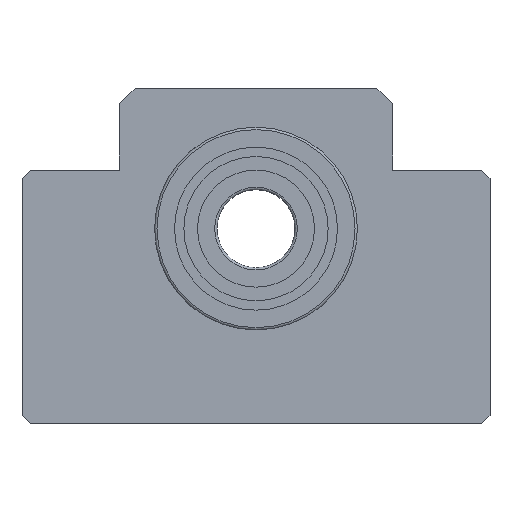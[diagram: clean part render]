
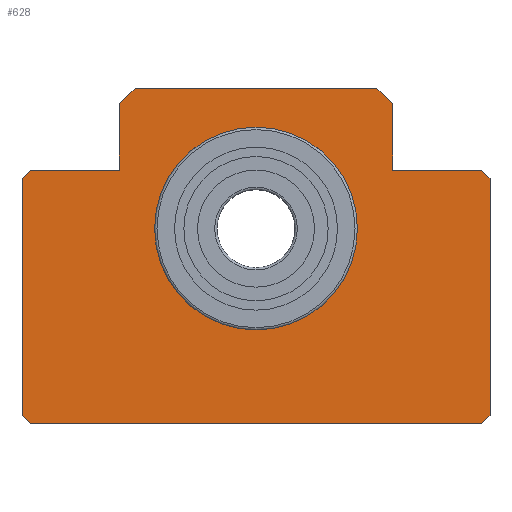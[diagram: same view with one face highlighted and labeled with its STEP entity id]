
A CAD part, top view. The second image highlights one B-rep face of the part: STEP entity #628.
In plain terms, the highlighted planar face has unit normal (0, 0, 1).
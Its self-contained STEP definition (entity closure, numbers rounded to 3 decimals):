
#52=CIRCLE('',#703,13.);
#152=ORIENTED_EDGE('',*,*,#268,.F.);
#153=ORIENTED_EDGE('',*,*,#221,.T.);
#154=ORIENTED_EDGE('',*,*,#225,.T.);
#155=ORIENTED_EDGE('',*,*,#230,.T.);
#156=ORIENTED_EDGE('',*,*,#233,.T.);
#157=ORIENTED_EDGE('',*,*,#236,.T.);
#158=ORIENTED_EDGE('',*,*,#239,.T.);
#159=ORIENTED_EDGE('',*,*,#243,.T.);
#160=ORIENTED_EDGE('',*,*,#246,.T.);
#161=ORIENTED_EDGE('',*,*,#249,.T.);
#162=ORIENTED_EDGE('',*,*,#252,.T.);
#163=ORIENTED_EDGE('',*,*,#255,.T.);
#164=ORIENTED_EDGE('',*,*,#258,.T.);
#165=ORIENTED_EDGE('',*,*,#262,.T.);
#166=ORIENTED_EDGE('',*,*,#265,.T.);
#221=EDGE_CURVE('',#293,#294,#351,.T.);
#225=EDGE_CURVE('',#294,#297,#355,.T.);
#230=EDGE_CURVE('',#297,#301,#358,.T.);
#233=EDGE_CURVE('',#301,#303,#361,.T.);
#236=EDGE_CURVE('',#303,#305,#364,.T.);
#239=EDGE_CURVE('',#305,#307,#367,.T.);
#243=EDGE_CURVE('',#307,#310,#370,.T.);
#246=EDGE_CURVE('',#310,#312,#373,.T.);
#249=EDGE_CURVE('',#312,#314,#376,.T.);
#252=EDGE_CURVE('',#314,#316,#379,.T.);
#255=EDGE_CURVE('',#316,#318,#382,.T.);
#258=EDGE_CURVE('',#318,#320,#385,.T.);
#262=EDGE_CURVE('',#320,#323,#388,.T.);
#265=EDGE_CURVE('',#323,#293,#391,.T.);
#268=EDGE_CURVE('',#326,#326,#52,.T.);
#293=VERTEX_POINT('',#954);
#294=VERTEX_POINT('',#955);
#297=VERTEX_POINT('',#963);
#301=VERTEX_POINT('',#973);
#303=VERTEX_POINT('',#979);
#305=VERTEX_POINT('',#985);
#307=VERTEX_POINT('',#991);
#310=VERTEX_POINT('',#999);
#312=VERTEX_POINT('',#1005);
#314=VERTEX_POINT('',#1011);
#316=VERTEX_POINT('',#1017);
#318=VERTEX_POINT('',#1023);
#320=VERTEX_POINT('',#1029);
#323=VERTEX_POINT('',#1037);
#326=VERTEX_POINT('',#1049);
#351=LINE('',#953,#393);
#355=LINE('',#962,#397);
#358=LINE('',#972,#400);
#361=LINE('',#978,#403);
#364=LINE('',#984,#406);
#367=LINE('',#990,#409);
#370=LINE('',#998,#412);
#373=LINE('',#1004,#415);
#376=LINE('',#1010,#418);
#379=LINE('',#1016,#421);
#382=LINE('',#1022,#424);
#385=LINE('',#1028,#427);
#388=LINE('',#1036,#430);
#391=LINE('',#1042,#433);
#393=VECTOR('',#761,1000.);
#397=VECTOR('',#767,1000.);
#400=VECTOR('',#776,1000.);
#403=VECTOR('',#781,1000.);
#406=VECTOR('',#786,1000.);
#409=VECTOR('',#791,1000.);
#412=VECTOR('',#798,1000.);
#415=VECTOR('',#803,1000.);
#418=VECTOR('',#808,1000.);
#421=VECTOR('',#813,1000.);
#424=VECTOR('',#818,1000.);
#427=VECTOR('',#823,1000.);
#430=VECTOR('',#830,1000.);
#433=VECTOR('',#835,1000.);
#455=EDGE_LOOP('',(#152));
#456=EDGE_LOOP('',(#153,#154,#155,#156,#157,#158,#159,#160,#161,#162,#163,
#164,#165,#166));
#531=FACE_BOUND('',#455,.T.);
#532=FACE_BOUND('',#456,.T.);
#602=PLANE('',#702);
#628=ADVANCED_FACE('',(#531,#532),#602,.T.);
#702=AXIS2_PLACEMENT_3D('',#1047,#841,#842);
#703=AXIS2_PLACEMENT_3D('',#1048,#843,#844);
#761=DIRECTION('',(0.,-1.,0.));
#767=DIRECTION('',(0.707,-0.707,0.));
#776=DIRECTION('',(1.,0.,0.));
#781=DIRECTION('',(0.707,0.707,0.));
#786=DIRECTION('',(0.,1.,0.));
#791=DIRECTION('',(-0.707,0.707,0.));
#798=DIRECTION('',(-1.,0.,0.));
#803=DIRECTION('',(0.,1.,0.));
#808=DIRECTION('',(-0.707,0.707,0.));
#813=DIRECTION('',(-1.,0.,0.));
#818=DIRECTION('',(-0.707,-0.707,0.));
#823=DIRECTION('',(0.,-1.,0.));
#830=DIRECTION('',(-1.,0.,0.));
#835=DIRECTION('',(-0.707,-0.707,0.));
#841=DIRECTION('',(0.,0.,1.));
#842=DIRECTION('',(1.,0.,0.));
#843=DIRECTION('',(0.,0.,1.));
#844=DIRECTION('',(1.,0.,0.));
#953=CARTESIAN_POINT('',(-30.,6.45,0.));
#954=CARTESIAN_POINT('',(-30.,6.45,0.));
#955=CARTESIAN_POINT('',(-30.,-23.95,0.));
#962=CARTESIAN_POINT('',(-30.,-23.95,0.));
#963=CARTESIAN_POINT('',(-28.95,-25.,0.));
#972=CARTESIAN_POINT('',(-28.95,-25.,0.));
#973=CARTESIAN_POINT('',(28.95,-25.,0.));
#978=CARTESIAN_POINT('',(28.95,-25.,0.));
#979=CARTESIAN_POINT('',(30.,-23.95,0.));
#984=CARTESIAN_POINT('',(30.,-23.95,0.));
#985=CARTESIAN_POINT('',(30.,6.45,0.));
#990=CARTESIAN_POINT('',(30.,6.45,0.));
#991=CARTESIAN_POINT('',(28.95,7.5,0.));
#998=CARTESIAN_POINT('',(28.95,7.5,0.));
#999=CARTESIAN_POINT('',(17.5,7.5,0.));
#1004=CARTESIAN_POINT('',(17.5,7.5,0.));
#1005=CARTESIAN_POINT('',(17.5,16.,0.));
#1010=CARTESIAN_POINT('',(17.5,16.,0.));
#1011=CARTESIAN_POINT('',(15.5,18.,0.));
#1016=CARTESIAN_POINT('',(15.5,18.,0.));
#1017=CARTESIAN_POINT('',(-15.5,18.,0.));
#1022=CARTESIAN_POINT('',(-15.5,18.,0.));
#1023=CARTESIAN_POINT('',(-17.5,16.,0.));
#1028=CARTESIAN_POINT('',(-17.5,16.,0.));
#1029=CARTESIAN_POINT('',(-17.5,7.5,0.));
#1036=CARTESIAN_POINT('',(-17.5,7.5,0.));
#1037=CARTESIAN_POINT('',(-28.95,7.5,0.));
#1042=CARTESIAN_POINT('',(-28.95,7.5,0.));
#1047=CARTESIAN_POINT('',(0.,0.,0.));
#1048=CARTESIAN_POINT('',(0.,0.,0.));
#1049=CARTESIAN_POINT('',(13.,0.,0.));
